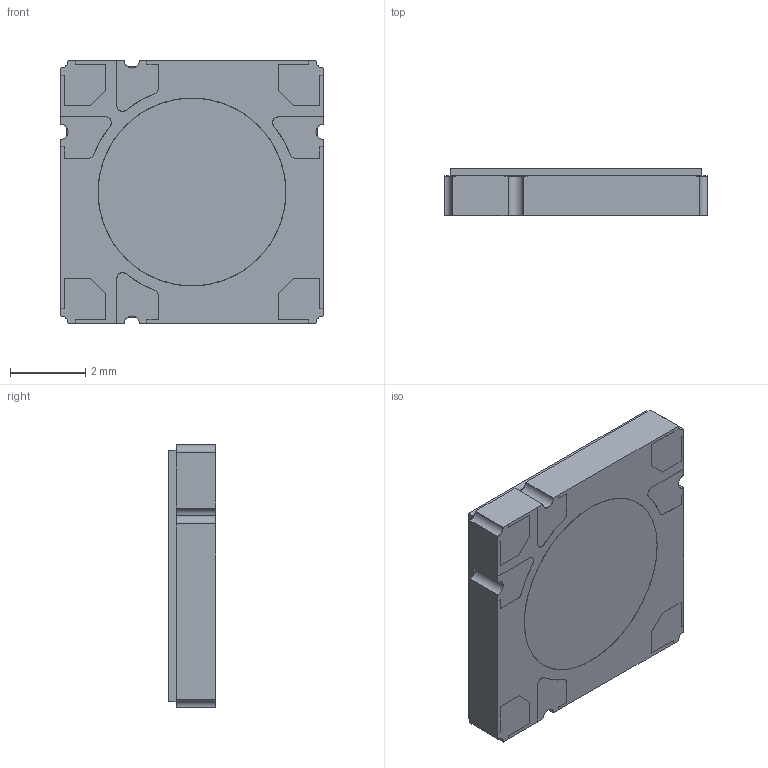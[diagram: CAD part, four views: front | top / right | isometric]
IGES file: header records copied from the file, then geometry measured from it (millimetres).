
Start section: SolidWorks IGES file using analytic representation for surfaces
Global section: file name: C:\P-Gold\Projects\Emitter_Packages\LZ4-10(10W)_07x07\Ceramic_07x07_Std\LZ4-04UV00-P3_RevC3.IGS; native system: SolidWorks 2014; preprocessor: SolidWorks 2014; author: dadebiyi; date: 151130.163934; units: millimetre
Bounding box: 7 x 1.26 x 7 mm (x, y, z)
Surface area: 244.2 mm2 (no closed solid volume)
Topology: 0 solids, 0 shells, 203 faces, 1754 edges, 1754 vertices
Faces by surface type: bspline 164, revolution 39
